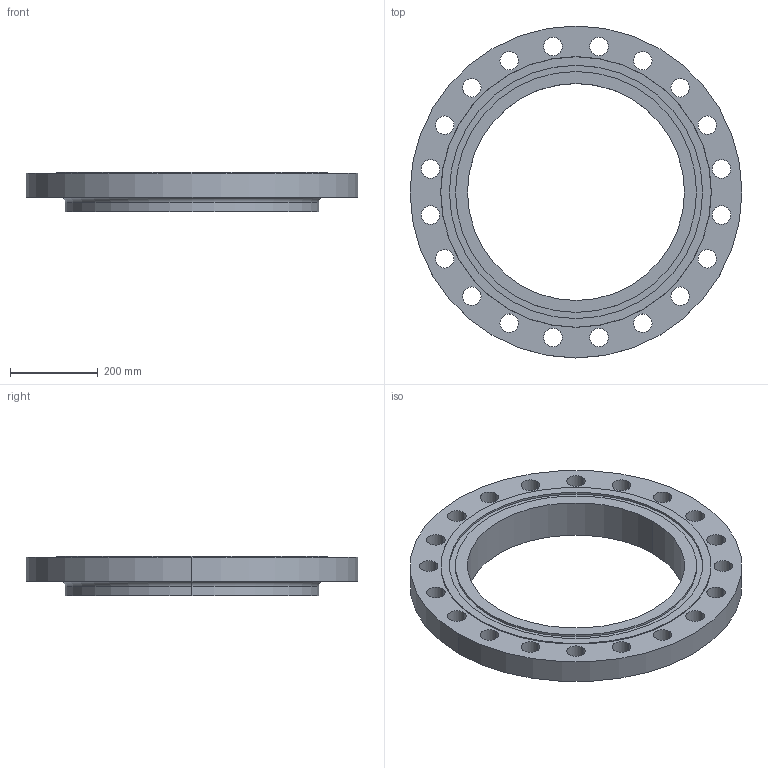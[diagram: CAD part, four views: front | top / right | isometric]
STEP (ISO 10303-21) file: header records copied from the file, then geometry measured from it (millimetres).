
FILE_DESCRIPTION (( 'STEP AP214' ), '1' );
FILE_NAME ('PN40 DN500 Type 13 - Type D Face.STEP', '2018-12-29T01:21:48', ( '' ), ( '' ), 'SwSTEP 2.0', 'SolidWorks 2019', '' );
FILE_SCHEMA (( 'AUTOMOTIVE_DESIGN' ));
Length unit declared in the file: millimetre
Products named in the file (1): PN40 DN500 Type 13 - Type D Face
Bounding box: 755 x 755 x 90 mm (x, y, z)
Volume: 15010652.7 mm3; surface area: 943903.4 mm2
Topology: 1 solids, 1 shells, 60 faces, 160 edges, 106 vertices
Faces by surface type: cylinder 50, plane 6, torus 2, cone 2
Entity records: 2054 total; most frequent: DIRECTION 390, CARTESIAN_POINT 327, ORIENTED_EDGE 320, AXIS2_PLACEMENT_3D 169, EDGE_CURVE 160, CIRCLE 108, EDGE_LOOP 106, VERTEX_POINT 106
